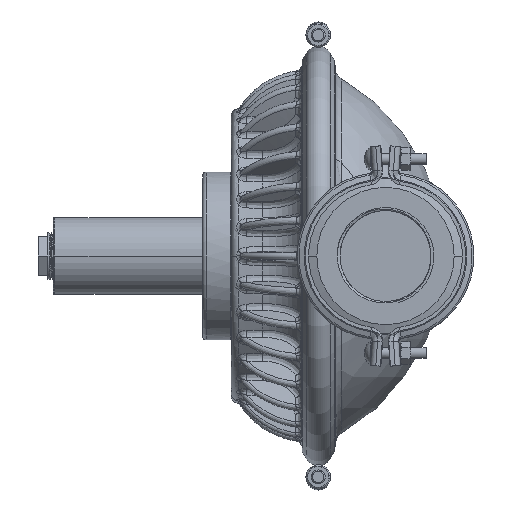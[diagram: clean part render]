
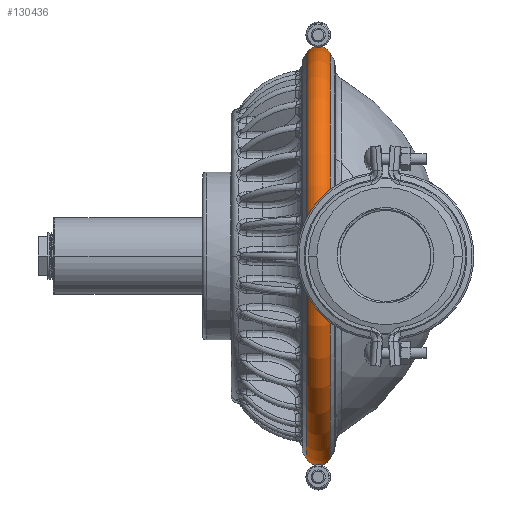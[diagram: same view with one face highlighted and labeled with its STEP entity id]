
A CAD part, left-side view. The second image highlights one B-rep face of the part: STEP entity #130436.
In plain terms, the highlighted toroidal (fillet/blend) face has major radius 177.937 mm and minor radius 12.563 mm.
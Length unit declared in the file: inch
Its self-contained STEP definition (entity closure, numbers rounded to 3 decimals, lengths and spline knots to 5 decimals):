
#652 = ORIENTED_EDGE ( 'NONE', *, *, #34279, .F. ) ;
#7086 = DIRECTION ( 'NONE',  ( 0., 1., 0. ) ) ;
#11113 = AXIS2_PLACEMENT_3D ( 'NONE', #48530, #7086, #166883 ) ;
#19824 = CARTESIAN_POINT ( 'NONE',  ( 0., -3.20566, 0. ) ) ;
#20290 = FACE_OUTER_BOUND ( 'NONE', #164878, .T. ) ;
#25591 = VERTEX_POINT ( 'NONE', #119669 ) ;
#28326 = CARTESIAN_POINT ( 'NONE',  ( -0.25195, -3.634, -7.00087 ) ) ;
#30642 = CARTESIAN_POINT ( 'NONE',  ( -0.25195, -3.634, 7.00087 ) ) ;
#33047 = CIRCLE ( 'NONE', #49929, 0.4946 ) ;
#34279 = EDGE_CURVE ( 'NONE', #144887, #57610, #108006, .T. ) ;
#35892 = CIRCLE ( 'NONE', #165594, 7.2527 ) ;
#44772 = DIRECTION ( 'NONE',  ( 0.999, 0., 0.036 ) ) ;
#48530 = CARTESIAN_POINT ( 'NONE',  ( 0., -3.634, 0. ) ) ;
#49929 = AXIS2_PLACEMENT_3D ( 'NONE', #28326, #117773, #118652 ) ;
#50145 = EDGE_CURVE ( 'NONE', #138895, #144887, #35892, .T. ) ;
#50427 = AXIS2_PLACEMENT_3D ( 'NONE', #113087, #62694, #74221 ) ;
#57610 = VERTEX_POINT ( 'NONE', #119126 ) ;
#62694 = DIRECTION ( 'NONE',  ( 0., 1., 0. ) ) ;
#67506 = EDGE_CURVE ( 'NONE', #25591, #57610, #132210, .T. ) ;
#73691 = DIRECTION ( 'NONE',  ( 0., 1., 0. ) ) ;
#73712 = CARTESIAN_POINT ( 'NONE',  ( -0.26084, -3.20566, 7.24801 ) ) ;
#74221 = DIRECTION ( 'NONE',  ( -0.036, 0., -0.999 ) ) ;
#84495 = DIRECTION ( 'NONE',  ( -0.018, 0.866, 0.5 ) ) ;
#95651 = TOROIDAL_SURFACE ( 'NONE', #11113, 7.0054, 0.4946 ) ;
#105103 = AXIS2_PLACEMENT_3D ( 'NONE', #30642, #44772, #84495 ) ;
#108006 = CIRCLE ( 'NONE', #105103, 0.4946 ) ;
#113087 = CARTESIAN_POINT ( 'NONE',  ( 0., -4.06234, 0. ) ) ;
#117773 = DIRECTION ( 'NONE',  ( -0.999, 0., 0.036 ) ) ;
#118243 = ORIENTED_EDGE ( 'NONE', *, *, #119691, .T. ) ;
#118652 = DIRECTION ( 'NONE',  ( -0.018, 0.866, -0.5 ) ) ;
#119126 = CARTESIAN_POINT ( 'NONE',  ( -0.26084, -4.06234, 7.24801 ) ) ;
#119669 = CARTESIAN_POINT ( 'NONE',  ( -0.26084, -4.06234, -7.24801 ) ) ;
#119691 = EDGE_CURVE ( 'NONE', #138895, #25591, #33047, .T. ) ;
#127511 = DIRECTION ( 'NONE',  ( -0.036, 0., -0.999 ) ) ;
#129851 = CARTESIAN_POINT ( 'NONE',  ( -0.26084, -3.20566, -7.24801 ) ) ;
#130436 = ADVANCED_FACE ( 'NONE', ( #20290 ), #95651, .T. ) ;
#132210 = CIRCLE ( 'NONE', #50427, 7.2527 ) ;
#138895 = VERTEX_POINT ( 'NONE', #129851 ) ;
#144887 = VERTEX_POINT ( 'NONE', #73712 ) ;
#148226 = ORIENTED_EDGE ( 'NONE', *, *, #50145, .F. ) ;
#164878 = EDGE_LOOP ( 'NONE', ( #173368, #652, #148226, #118243 ) ) ;
#165594 = AXIS2_PLACEMENT_3D ( 'NONE', #19824, #73691, #127511 ) ;
#166883 = DIRECTION ( 'NONE',  ( 0.036, 0., 0.999 ) ) ;
#173368 = ORIENTED_EDGE ( 'NONE', *, *, #67506, .T. ) ;
